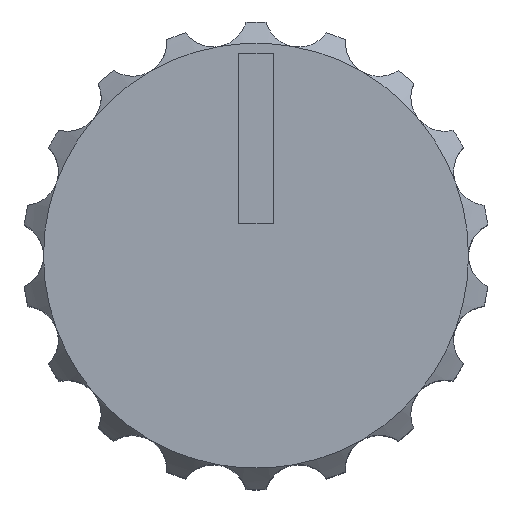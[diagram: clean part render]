
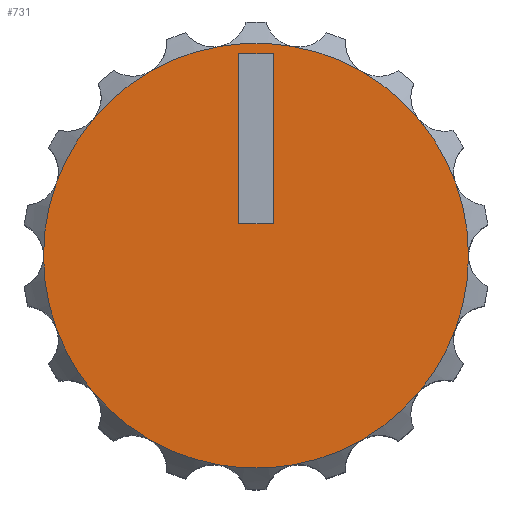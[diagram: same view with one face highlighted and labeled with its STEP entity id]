
A CAD part, top view. The second image highlights one B-rep face of the part: STEP entity #731.
In plain terms, the highlighted planar face has unit normal (0, 0, 1).
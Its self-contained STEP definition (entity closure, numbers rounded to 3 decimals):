
#63 = EDGE_CURVE('',#64,#66,#68,.T.);
#64 = VERTEX_POINT('',#65);
#65 = CARTESIAN_POINT('',(10.,0.,15.));
#66 = VERTEX_POINT('',#67);
#67 = CARTESIAN_POINT('',(9.397,3.42,15.));
#68 = CIRCLE('',#69,10.);
#69 = AXIS2_PLACEMENT_3D('',#70,#71,#72);
#70 = CARTESIAN_POINT('',(0.,0.,15.));
#71 = DIRECTION('',(0.,0.,1.));
#72 = DIRECTION('',(1.,0.,-0.));
#731 = ADVANCED_FACE('',(#732,#886),#920,.T.);
#732 = FACE_BOUND('',#733,.T.);
#733 = EDGE_LOOP('',(#734,#735,#744,#753,#762,#771,#780,#789,#798,#807,
    #816,#825,#834,#843,#852,#861,#870,#879));
#734 = ORIENTED_EDGE('',*,*,#63,.T.);
#735 = ORIENTED_EDGE('',*,*,#736,.T.);
#736 = EDGE_CURVE('',#66,#737,#739,.T.);
#737 = VERTEX_POINT('',#738);
#738 = CARTESIAN_POINT('',(7.66,6.428,15.));
#739 = CIRCLE('',#740,10.);
#740 = AXIS2_PLACEMENT_3D('',#741,#742,#743);
#741 = CARTESIAN_POINT('',(0.,0.,15.));
#742 = DIRECTION('',(0.,0.,1.));
#743 = DIRECTION('',(1.,0.,-0.));
#744 = ORIENTED_EDGE('',*,*,#745,.T.);
#745 = EDGE_CURVE('',#737,#746,#748,.T.);
#746 = VERTEX_POINT('',#747);
#747 = CARTESIAN_POINT('',(5.,8.66,15.));
#748 = CIRCLE('',#749,10.);
#749 = AXIS2_PLACEMENT_3D('',#750,#751,#752);
#750 = CARTESIAN_POINT('',(0.,0.,15.));
#751 = DIRECTION('',(0.,0.,1.));
#752 = DIRECTION('',(1.,0.,-0.));
#753 = ORIENTED_EDGE('',*,*,#754,.T.);
#754 = EDGE_CURVE('',#746,#755,#757,.T.);
#755 = VERTEX_POINT('',#756);
#756 = CARTESIAN_POINT('',(1.736,9.848,15.));
#757 = CIRCLE('',#758,10.);
#758 = AXIS2_PLACEMENT_3D('',#759,#760,#761);
#759 = CARTESIAN_POINT('',(0.,0.,15.));
#760 = DIRECTION('',(0.,0.,1.));
#761 = DIRECTION('',(1.,0.,-0.));
#762 = ORIENTED_EDGE('',*,*,#763,.T.);
#763 = EDGE_CURVE('',#755,#764,#766,.T.);
#764 = VERTEX_POINT('',#765);
#765 = CARTESIAN_POINT('',(-1.736,9.848,15.));
#766 = CIRCLE('',#767,10.);
#767 = AXIS2_PLACEMENT_3D('',#768,#769,#770);
#768 = CARTESIAN_POINT('',(0.,0.,15.));
#769 = DIRECTION('',(0.,0.,1.));
#770 = DIRECTION('',(1.,0.,-0.));
#771 = ORIENTED_EDGE('',*,*,#772,.T.);
#772 = EDGE_CURVE('',#764,#773,#775,.T.);
#773 = VERTEX_POINT('',#774);
#774 = CARTESIAN_POINT('',(-5.,8.66,15.));
#775 = CIRCLE('',#776,10.);
#776 = AXIS2_PLACEMENT_3D('',#777,#778,#779);
#777 = CARTESIAN_POINT('',(0.,0.,15.));
#778 = DIRECTION('',(0.,0.,1.));
#779 = DIRECTION('',(1.,0.,-0.));
#780 = ORIENTED_EDGE('',*,*,#781,.T.);
#781 = EDGE_CURVE('',#773,#782,#784,.T.);
#782 = VERTEX_POINT('',#783);
#783 = CARTESIAN_POINT('',(-7.66,6.428,15.));
#784 = CIRCLE('',#785,10.);
#785 = AXIS2_PLACEMENT_3D('',#786,#787,#788);
#786 = CARTESIAN_POINT('',(0.,0.,15.));
#787 = DIRECTION('',(0.,0.,1.));
#788 = DIRECTION('',(1.,0.,-0.));
#789 = ORIENTED_EDGE('',*,*,#790,.T.);
#790 = EDGE_CURVE('',#782,#791,#793,.T.);
#791 = VERTEX_POINT('',#792);
#792 = CARTESIAN_POINT('',(-9.397,3.42,15.));
#793 = CIRCLE('',#794,10.);
#794 = AXIS2_PLACEMENT_3D('',#795,#796,#797);
#795 = CARTESIAN_POINT('',(0.,0.,15.));
#796 = DIRECTION('',(0.,0.,1.));
#797 = DIRECTION('',(1.,0.,-0.));
#798 = ORIENTED_EDGE('',*,*,#799,.T.);
#799 = EDGE_CURVE('',#791,#800,#802,.T.);
#800 = VERTEX_POINT('',#801);
#801 = CARTESIAN_POINT('',(-10.,0.,15.));
#802 = CIRCLE('',#803,10.);
#803 = AXIS2_PLACEMENT_3D('',#804,#805,#806);
#804 = CARTESIAN_POINT('',(0.,0.,15.));
#805 = DIRECTION('',(0.,0.,1.));
#806 = DIRECTION('',(1.,0.,-0.));
#807 = ORIENTED_EDGE('',*,*,#808,.T.);
#808 = EDGE_CURVE('',#800,#809,#811,.T.);
#809 = VERTEX_POINT('',#810);
#810 = CARTESIAN_POINT('',(-9.397,-3.42,15.));
#811 = CIRCLE('',#812,10.);
#812 = AXIS2_PLACEMENT_3D('',#813,#814,#815);
#813 = CARTESIAN_POINT('',(0.,0.,15.));
#814 = DIRECTION('',(0.,0.,1.));
#815 = DIRECTION('',(1.,0.,-0.));
#816 = ORIENTED_EDGE('',*,*,#817,.T.);
#817 = EDGE_CURVE('',#809,#818,#820,.T.);
#818 = VERTEX_POINT('',#819);
#819 = CARTESIAN_POINT('',(-7.66,-6.428,15.));
#820 = CIRCLE('',#821,10.);
#821 = AXIS2_PLACEMENT_3D('',#822,#823,#824);
#822 = CARTESIAN_POINT('',(0.,0.,15.));
#823 = DIRECTION('',(0.,0.,1.));
#824 = DIRECTION('',(1.,0.,-0.));
#825 = ORIENTED_EDGE('',*,*,#826,.T.);
#826 = EDGE_CURVE('',#818,#827,#829,.T.);
#827 = VERTEX_POINT('',#828);
#828 = CARTESIAN_POINT('',(-5.,-8.66,15.));
#829 = CIRCLE('',#830,10.);
#830 = AXIS2_PLACEMENT_3D('',#831,#832,#833);
#831 = CARTESIAN_POINT('',(0.,0.,15.));
#832 = DIRECTION('',(0.,0.,1.));
#833 = DIRECTION('',(1.,0.,-0.));
#834 = ORIENTED_EDGE('',*,*,#835,.T.);
#835 = EDGE_CURVE('',#827,#836,#838,.T.);
#836 = VERTEX_POINT('',#837);
#837 = CARTESIAN_POINT('',(-1.736,-9.848,15.));
#838 = CIRCLE('',#839,10.);
#839 = AXIS2_PLACEMENT_3D('',#840,#841,#842);
#840 = CARTESIAN_POINT('',(0.,0.,15.));
#841 = DIRECTION('',(0.,0.,1.));
#842 = DIRECTION('',(1.,0.,-0.));
#843 = ORIENTED_EDGE('',*,*,#844,.T.);
#844 = EDGE_CURVE('',#836,#845,#847,.T.);
#845 = VERTEX_POINT('',#846);
#846 = CARTESIAN_POINT('',(1.736,-9.848,15.));
#847 = CIRCLE('',#848,10.);
#848 = AXIS2_PLACEMENT_3D('',#849,#850,#851);
#849 = CARTESIAN_POINT('',(0.,0.,15.));
#850 = DIRECTION('',(0.,0.,1.));
#851 = DIRECTION('',(1.,0.,-0.));
#852 = ORIENTED_EDGE('',*,*,#853,.T.);
#853 = EDGE_CURVE('',#845,#854,#856,.T.);
#854 = VERTEX_POINT('',#855);
#855 = CARTESIAN_POINT('',(5.,-8.66,15.));
#856 = CIRCLE('',#857,10.);
#857 = AXIS2_PLACEMENT_3D('',#858,#859,#860);
#858 = CARTESIAN_POINT('',(0.,0.,15.));
#859 = DIRECTION('',(0.,0.,1.));
#860 = DIRECTION('',(1.,0.,-0.));
#861 = ORIENTED_EDGE('',*,*,#862,.T.);
#862 = EDGE_CURVE('',#854,#863,#865,.T.);
#863 = VERTEX_POINT('',#864);
#864 = CARTESIAN_POINT('',(7.66,-6.428,15.));
#865 = CIRCLE('',#866,10.);
#866 = AXIS2_PLACEMENT_3D('',#867,#868,#869);
#867 = CARTESIAN_POINT('',(0.,0.,15.));
#868 = DIRECTION('',(0.,0.,1.));
#869 = DIRECTION('',(1.,0.,-0.));
#870 = ORIENTED_EDGE('',*,*,#871,.T.);
#871 = EDGE_CURVE('',#863,#872,#874,.T.);
#872 = VERTEX_POINT('',#873);
#873 = CARTESIAN_POINT('',(9.397,-3.42,15.));
#874 = CIRCLE('',#875,10.);
#875 = AXIS2_PLACEMENT_3D('',#876,#877,#878);
#876 = CARTESIAN_POINT('',(0.,0.,15.));
#877 = DIRECTION('',(0.,0.,1.));
#878 = DIRECTION('',(1.,0.,-0.));
#879 = ORIENTED_EDGE('',*,*,#880,.T.);
#880 = EDGE_CURVE('',#872,#64,#881,.T.);
#881 = CIRCLE('',#882,10.);
#882 = AXIS2_PLACEMENT_3D('',#883,#884,#885);
#883 = CARTESIAN_POINT('',(0.,0.,15.));
#884 = DIRECTION('',(0.,0.,1.));
#885 = DIRECTION('',(1.,0.,-0.));
#886 = FACE_BOUND('',#887,.T.);
#887 = EDGE_LOOP('',(#888,#898,#906,#914));
#888 = ORIENTED_EDGE('',*,*,#889,.T.);
#889 = EDGE_CURVE('',#890,#892,#894,.T.);
#890 = VERTEX_POINT('',#891);
#891 = CARTESIAN_POINT('',(0.8,1.5,15.));
#892 = VERTEX_POINT('',#893);
#893 = CARTESIAN_POINT('',(-0.8,1.5,15.));
#894 = LINE('',#895,#896);
#895 = CARTESIAN_POINT('',(-0.4,1.5,15.));
#896 = VECTOR('',#897,1.);
#897 = DIRECTION('',(-1.,-0.,0.));
#898 = ORIENTED_EDGE('',*,*,#899,.T.);
#899 = EDGE_CURVE('',#892,#900,#902,.T.);
#900 = VERTEX_POINT('',#901);
#901 = CARTESIAN_POINT('',(-0.8,9.5,15.));
#902 = LINE('',#903,#904);
#903 = CARTESIAN_POINT('',(-0.8,0.75,15.));
#904 = VECTOR('',#905,1.);
#905 = DIRECTION('',(-0.,1.,0.));
#906 = ORIENTED_EDGE('',*,*,#907,.F.);
#907 = EDGE_CURVE('',#908,#900,#910,.T.);
#908 = VERTEX_POINT('',#909);
#909 = CARTESIAN_POINT('',(0.8,9.5,15.));
#910 = LINE('',#911,#912);
#911 = CARTESIAN_POINT('',(-0.4,9.5,15.));
#912 = VECTOR('',#913,1.);
#913 = DIRECTION('',(-1.,-0.,0.));
#914 = ORIENTED_EDGE('',*,*,#915,.F.);
#915 = EDGE_CURVE('',#890,#908,#916,.T.);
#916 = LINE('',#917,#918);
#917 = CARTESIAN_POINT('',(0.8,0.75,15.));
#918 = VECTOR('',#919,1.);
#919 = DIRECTION('',(-0.,1.,0.));
#920 = PLANE('',#921);
#921 = AXIS2_PLACEMENT_3D('',#922,#923,#924);
#922 = CARTESIAN_POINT('',(0.,0.,15.));
#923 = DIRECTION('',(0.,0.,1.));
#924 = DIRECTION('',(1.,0.,-0.));
